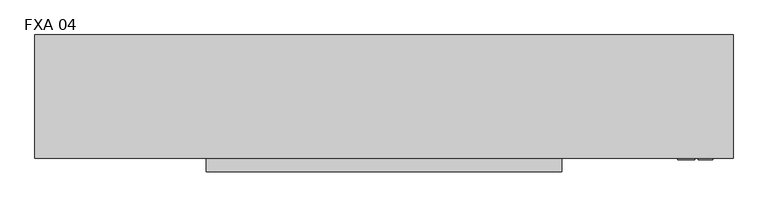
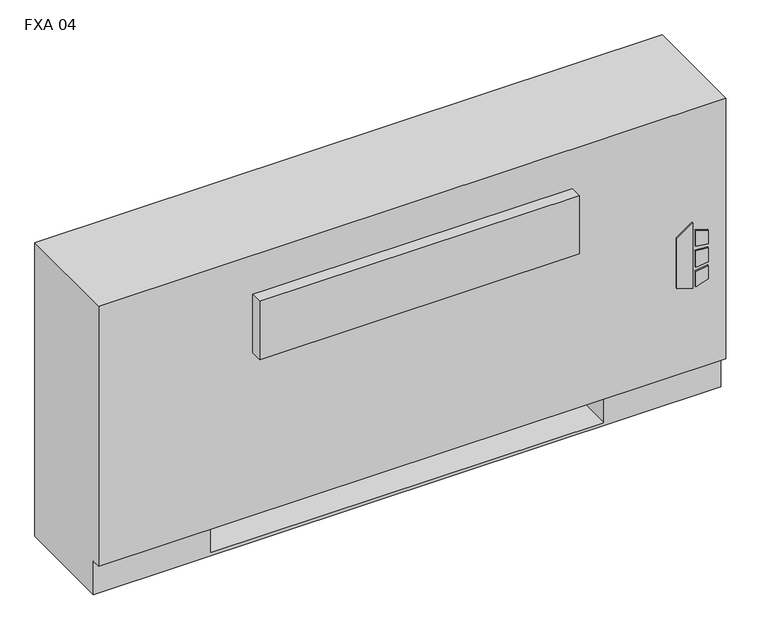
"""IFC4 building model written with IfcOpenShell, lengths in millimetres: proxy geometry, Vertical_Fan_Coil_Unit_-_FXA_-_IEC_-_2-Pipe_FS-FR_RH_2022 : FXA 04."""

from ifc_helpers import new_model, si_unit, point, frame, frame_2d, origin, place, context, project, spatial, polyline, circle_curve, trimmed, segment, composite_curve, outline, extrude, source, transform, mapped, element, save
from ifc_brep_helpers import plane_surface, revolved_surface, advanced_brep


def fxa_04_6a423ed9(model_context):
    return source(origin(), model_context, "Body", "SolidModel", [
        extrude(outline(polyline([(263.9480703, 696.9868862), (254.0, 729.1602728), (396.1709244, 729.1602728), (373.1489183, 696.9868862), (263.9480703, 696.9868862)])), frame((0.0, 12.7, 0.0), z_axis=(0.0, 1.0, 0.0), x_axis=(0.0, 0.0, 1.0)), (0.0, 0.0, 1.0), 3.175),
        extrude(outline(polyline([(342.9473557, 735.9186058), (339.7449632, 762.0), (368.9738042, 762.0), (377.0382193, 735.9186058), (342.9473557, 735.9186058)])), frame((0.0, 12.7, 0.0), z_axis=(0.0, 1.0, 0.0), x_axis=(0.0, 0.0, 1.0)), (0.0, 0.0, 1.0), 3.175),
        extrude(outline(polyline([(291.0838288, 762.0), (287.4183279, 735.9186058), (254.0, 735.9186058), (262.6342372, 762.0), (291.0838288, 762.0)])), frame((0.0, 12.7, 0.0), z_axis=(0.0, 1.0, 0.0), x_axis=(0.0, 0.0, 1.0)), (0.0, 0.0, 1.0), 3.175),
        extrude(outline(polyline([(330.3989903, 762.0), (332.6808166, 735.9186058), (296.7432681, 735.9186058), (299.4845331, 762.0), (330.3989903, 762.0)])), frame((0.0, 12.7, 0.0), z_axis=(0.0, 1.0, 0.0), x_axis=(0.0, 0.0, 1.0)), (0.0, 0.0, 1.0), 3.175),
        extrude(outline(polyline([(-374.65, 81.534), (-374.65, 223.266), (-254.0, 223.266), (-254.0, 81.534), (-374.65, 81.534)])), frame((0.0, 0.0, 327.025), z_axis=(0.0, 0.0, 1.0), x_axis=(1.0, 0.0, 0.0)), (0.0, 0.0, 1.0), 260.35),
        extrude(outline(composite_curve([segment(trimmed(circle_curve(frame_2d((622.3, 130.175)), 9.525), [point((612.775, 130.175))], [point((631.825, 130.175))], False, "CARTESIAN"), True, "CONTINUOUS"), segment(trimmed(circle_curve(frame_2d((622.3, 130.175)), 9.525), [point((631.825, 130.175))], [point((612.775, 130.175))], False, "CARTESIAN"), True, "CONTINUOUS")], self_intersect=False)), frame((0.0, 0.0, 101.6), z_axis=(0.0, 0.0, 1.0), x_axis=(1.0, 0.0, 0.0)), (0.0, 0.0, 1.0), 25.4),
        extrude(outline(polyline([(723.9, 196.85), (723.9, 63.5), (558.8, 63.5), (558.8, 196.85), (723.9, 196.85)])), frame((0.0, 0.0, 127.0), z_axis=(0.0, 0.0, 1.0), x_axis=(1.0, 0.0, 0.0)), (0.0, 0.0, 1.0), 50.8),
        extrude(outline(polyline([(482.6, -9.525), (-177.8, -9.525), (-177.8, 15.875), (482.6, 15.875), (482.6, -9.525)])), frame((0.0, 0.0, 428.625), z_axis=(0.0, 0.0, 1.0), x_axis=(1.0, 0.0, 0.0)), (0.0, 0.0, 1.0), 127.0),
        extrude(outline(composite_curve([segment(trimmed(circle_curve(frame_2d((93.1926, 485.5972)), 7.9375), [point((93.1926, 493.5347))], [point((93.1926, 477.6597))], False, "CARTESIAN"), True, "CONTINUOUS"), segment(trimmed(circle_curve(frame_2d((93.1926, 485.5972)), 7.9375), [point((93.1926, 477.6597))], [point((93.1926, 493.5347))], False, "CARTESIAN"), True, "CONTINUOUS")], self_intersect=False)), frame((558.8, 0.0, 0.0), z_axis=(1.0, 0.0, 0.0), x_axis=(0.0, 1.0, 0.0)), (0.0, 0.0, 1.0), 50.8),
        extrude(outline(composite_curve([segment(trimmed(circle_curve(frame_2d((141.3002, 458.9526)), 7.9375), [point((141.3002, 466.8901))], [point((141.3002, 451.0151))], False, "CARTESIAN"), True, "CONTINUOUS"), segment(trimmed(circle_curve(frame_2d((141.3002, 458.9526)), 7.9375), [point((141.3002, 451.0151))], [point((141.3002, 466.8901))], False, "CARTESIAN"), True, "CONTINUOUS")], self_intersect=False)), frame((558.8, 0.0, 0.0), z_axis=(1.0, 0.0, 0.0), x_axis=(0.0, 1.0, 0.0)), (0.0, 0.0, 1.0), 50.8),
        advanced_brep(
        [(800.1, 244.475, 641.35), (-495.3, 244.475, 641.35), (-495.3, 15.875, 641.35), (800.1, 15.875, 641.35), (-495.3, 244.475, 0.0), (800.1, 244.475, 0.0), (800.1, 34.925, 0.0), (-495.3, 34.925, 0.0), (558.8, 244.475, 73.025), (787.4, 244.475, 73.025), (787.4, 244.475, 628.65), (558.8, 244.475, 628.65), (558.8, 244.475, 414.8650565), (587.375, 244.475, 414.8650565), (587.375, 244.475, 385.2349435), (558.8, 244.475, 385.2349435), (558.8, 244.475, 287.3375), (587.375, 244.475, 287.3375), (587.375, 244.475, 258.7625), (558.8, 244.475, 258.7625), (558.8, 244.475, 141.2875), (587.375, 244.475, 141.2875), (587.375, 244.475, 112.7125), (558.8, 244.475, 112.7125), (-254.0, 244.475, 628.65), (-482.6, 244.475, 628.65), (-482.6, 244.475, 73.025), (-254.0, 244.475, 73.025), (-254.0, 244.475, 112.7125), (-282.575, 244.475, 112.7125), (-282.575, 244.475, 141.2875), (-254.0, 244.475, 141.2875), (-254.0, 244.475, 258.7625), (-282.575, 244.475, 258.7625), (-282.575, 244.475, 287.3375), (-254.0, 244.475, 287.3375), (-254.0, 244.475, 385.2349435), (-282.575, 244.475, 385.2349435), (-282.575, 244.475, 414.8650565), (-254.0, 244.475, 414.8650565), (577.0626, 244.475, 127.0), (565.9374, 244.475, 127.0), (577.0626, 244.475, 400.05), (565.9374, 244.475, 400.05), (577.0626, 244.475, 273.05), (565.9374, 244.475, 273.05), (-261.1374, 244.475, 127.0), (-272.2626, 244.475, 127.0), (-261.1374, 244.475, 273.05), (-272.2626, 244.475, 273.05), (-261.1374, 244.475, 400.05), (-272.2626, 244.475, 400.05), (-495.3, 34.925, 73.025), (-495.3, 15.875, 73.025), (800.1, 15.875, 73.025), (800.1, 34.925, 73.025), (-254.0, 34.925, 73.025), (-254.0, 219.075, 73.025), (558.8, 219.075, 73.025), (558.8, 34.925, 73.025), (558.8, 34.925, 6.35), (-254.0, 34.925, 6.35), (558.8, 41.275, 628.65), (787.4, 41.275, 628.65), (787.4, 41.275, 73.025), (558.8, 41.275, 73.025), (-254.0, 41.275, 628.65), (-254.0, 41.275, 73.025), (-482.6, 41.275, 73.025), (-482.6, 41.275, 628.65), (558.8, 219.075, 73.025), (558.8, 238.125, 112.7125), (558.8, 238.125, 141.2875), (558.8, 238.125, 258.7625), (558.8, 238.125, 287.3375), (558.8, 238.125, 385.2349435), (558.8, 238.125, 414.8650565), (-254.0, 219.075, 73.025), (-254.0, 238.125, 414.8650565), (-254.0, 238.125, 385.2349435), (-254.0, 238.125, 287.3375), (-254.0, 238.125, 258.7625), (-254.0, 238.125, 141.2875), (-254.0, 238.125, 112.7125), (-254.0, 219.075, 6.35), (558.8, 219.075, 6.35), (587.375, 238.125, 112.7125), (587.375, 238.125, 141.2875), (565.9374, 238.125, 127.0), (577.0626, 238.125, 127.0), (587.375, 238.125, 258.7625), (587.375, 238.125, 287.3375), (565.9374, 238.125, 273.05), (577.0626, 238.125, 273.05), (587.375, 238.125, 385.2349435), (587.375, 238.125, 414.8650565), (565.9374, 238.125, 400.05), (577.0626, 238.125, 400.05), (-282.575, 238.125, 141.2875), (-282.575, 238.125, 112.7125), (-272.2626, 238.125, 127.0), (-261.1374, 238.125, 127.0), (-282.575, 238.125, 287.3375), (-282.575, 238.125, 258.7625), (-272.2626, 238.125, 273.05), (-261.1374, 238.125, 273.05), (-282.575, 238.125, 414.8650565), (-282.575, 238.125, 385.2349435), (-272.2626, 238.125, 400.05), (-261.1374, 238.125, 400.05)],
        [
            (0, 1),
            (1, 2),
            (2, 3),
            (3, 0),
            (4, 5),
            (5, 6),
            (6, 7),
            (7, 4),
            (0, 5),
            (4, 1),
            (8, 9),
            (9, 10),
            (10, 11),
            (11, 12),
            (12, 13),
            (13, 14),
            (14, 15),
            (15, 16),
            (16, 17),
            (17, 18),
            (18, 19),
            (19, 20),
            (20, 21),
            (21, 22),
            (22, 23),
            (23, 8),
            (24, 25),
            (25, 26),
            (26, 27),
            (27, 28),
            (28, 29),
            (29, 30),
            (30, 31),
            (31, 32),
            (32, 33),
            (33, 34),
            (34, 35),
            (35, 36),
            (36, 37),
            (37, 38),
            (38, 39),
            (39, 24),
            (40, 41, circle_curve(frame((571.5, 244.475, 127.0), z_axis=(0.0, -1.0, 0.0), x_axis=(-1.0, 0.0, 0.0)), 5.5626)),
            (41, 40, circle_curve(frame((571.5, 244.475, 127.0), z_axis=(0.0, -1.0, 0.0), x_axis=(-1.0, 0.0, 0.0)), 5.5626)),
            (42, 43, circle_curve(frame((571.5, 244.475, 400.05), z_axis=(0.0, -1.0, 0.0), x_axis=(-1.0, 0.0, 0.0)), 5.5626)),
            (43, 42, circle_curve(frame((571.5, 244.475, 400.05), z_axis=(0.0, -1.0, 0.0), x_axis=(-1.0, 0.0, 0.0)), 5.5626)),
            (44, 45, circle_curve(frame((571.5, 244.475, 273.05), z_axis=(0.0, -1.0, 0.0), x_axis=(-1.0, 0.0, 0.0)), 5.5626)),
            (45, 44, circle_curve(frame((571.5, 244.475, 273.05), z_axis=(0.0, -1.0, 0.0), x_axis=(-1.0, 0.0, 0.0)), 5.5626)),
            (46, 47, circle_curve(frame((-266.7, 244.475, 127.0), z_axis=(0.0, -1.0, 0.0), x_axis=(-1.0, 0.0, 0.0)), 5.5626)),
            (47, 46, circle_curve(frame((-266.7, 244.475, 127.0), z_axis=(0.0, -1.0, 0.0), x_axis=(-1.0, 0.0, 0.0)), 5.5626)),
            (48, 49, circle_curve(frame((-266.7, 244.475, 273.05), z_axis=(0.0, -1.0, 0.0), x_axis=(-1.0, 0.0, 0.0)), 5.5626)),
            (49, 48, circle_curve(frame((-266.7, 244.475, 273.05), z_axis=(0.0, -1.0, 0.0), x_axis=(-1.0, 0.0, 0.0)), 5.5626)),
            (50, 51, circle_curve(frame((-266.7, 244.475, 400.05), z_axis=(0.0, -1.0, 0.0), x_axis=(-1.0, 0.0, 0.0)), 5.5626)),
            (51, 50, circle_curve(frame((-266.7, 244.475, 400.05), z_axis=(0.0, -1.0, 0.0), x_axis=(-1.0, 0.0, 0.0)), 5.5626)),
            (7, 52),
            (52, 53),
            (53, 2),
            (53, 54),
            (54, 3),
            (54, 55),
            (55, 6),
            (52, 56),
            (56, 57),
            (57, 58),
            (58, 59),
            (59, 55),
            (59, 60),
            (60, 61),
            (61, 56),
            (62, 63),
            (63, 64),
            (64, 65),
            (65, 62),
            (66, 67),
            (67, 68),
            (68, 69),
            (69, 66),
            (65, 70),
            (70, 8),
            (23, 71),
            (71, 72),
            (72, 20),
            (19, 73),
            (73, 74),
            (74, 16),
            (15, 75),
            (75, 76),
            (76, 12),
            (11, 62),
            (64, 9),
            (63, 10),
            (69, 25),
            (24, 66),
            (68, 26),
            (67, 77),
            (77, 27),
            (39, 78),
            (78, 79),
            (79, 36),
            (35, 80),
            (80, 81),
            (81, 32),
            (31, 82),
            (82, 83),
            (83, 28),
            (57, 84),
            (84, 85),
            (85, 58),
            (85, 60),
            (84, 61),
            (71, 86),
            (86, 87),
            (87, 72),
            (88, 89, circle_curve(frame((571.5, 238.125, 127.0), z_axis=(0.0, 1.0, 0.0), x_axis=(-1.0, 0.0, 0.0)), 5.5626)),
            (89, 88, circle_curve(frame((571.5, 238.125, 127.0), z_axis=(0.0, 1.0, 0.0), x_axis=(-1.0, 0.0, 0.0)), 5.5626)),
            (73, 90),
            (90, 91),
            (91, 74),
            (92, 93, circle_curve(frame((571.5, 238.125, 273.05), z_axis=(0.0, 1.0, 0.0), x_axis=(-1.0, 0.0, 0.0)), 5.5626)),
            (93, 92, circle_curve(frame((571.5, 238.125, 273.05), z_axis=(0.0, 1.0, 0.0), x_axis=(-1.0, 0.0, 0.0)), 5.5626)),
            (75, 94),
            (94, 95),
            (95, 76),
            (96, 97, circle_curve(frame((571.5, 238.125, 400.05), z_axis=(0.0, 1.0, 0.0), x_axis=(-1.0, 0.0, 0.0)), 5.5626)),
            (97, 96, circle_curve(frame((571.5, 238.125, 400.05), z_axis=(0.0, 1.0, 0.0), x_axis=(-1.0, 0.0, 0.0)), 5.5626)),
            (98, 99),
            (99, 83),
            (82, 98),
            (100, 101, circle_curve(frame((-266.7, 238.125, 127.0), z_axis=(0.0, 1.0, 0.0), x_axis=(-1.0, 0.0, 0.0)), 5.5626)),
            (101, 100, circle_curve(frame((-266.7, 238.125, 127.0), z_axis=(0.0, 1.0, 0.0), x_axis=(-1.0, 0.0, 0.0)), 5.5626)),
            (102, 103),
            (103, 81),
            (80, 102),
            (104, 105, circle_curve(frame((-266.7, 238.125, 273.05), z_axis=(0.0, 1.0, 0.0), x_axis=(-1.0, 0.0, 0.0)), 5.5626)),
            (105, 104, circle_curve(frame((-266.7, 238.125, 273.05), z_axis=(0.0, 1.0, 0.0), x_axis=(-1.0, 0.0, 0.0)), 5.5626)),
            (106, 107),
            (107, 79),
            (78, 106),
            (108, 109, circle_curve(frame((-266.7, 238.125, 400.05), z_axis=(0.0, 1.0, 0.0), x_axis=(-1.0, 0.0, 0.0)), 5.5626)),
            (109, 108, circle_curve(frame((-266.7, 238.125, 400.05), z_axis=(0.0, 1.0, 0.0), x_axis=(-1.0, 0.0, 0.0)), 5.5626)),
            (87, 21),
            (86, 22),
            (91, 17),
            (90, 18),
            (95, 13),
            (94, 14),
            (30, 98),
            (99, 29),
            (34, 102),
            (103, 33),
            (38, 106),
            (107, 37),
            (88, 41),
            (40, 89),
            (96, 43),
            (42, 97),
            (92, 45),
            (44, 93),
            (100, 47),
            (46, 101),
            (104, 49),
            (48, 105),
            (108, 51),
            (50, 109),
        ],
        [
            plane_surface(frame((-495.3, 244.475, 641.35), z_axis=(0.0, 0.0, 1.0), x_axis=(-1.0, 0.0, 0.0))),
            plane_surface(frame((-495.3, 244.475, 0.0), z_axis=(0.0, 0.0, -1.0), x_axis=(1.0, 0.0, 0.0))),
            plane_surface(frame((800.1, 244.475, 641.35), z_axis=(0.0, 1.0, 0.0), x_axis=(0.0, 0.0, -1.0))),
            plane_surface(frame((-495.3, 244.475, 641.35), z_axis=(-1.0, 0.0, 0.0), x_axis=(0.0, 0.0, -1.0))),
            plane_surface(frame((-495.3, 15.875, 641.35), z_axis=(0.0, -1.0, 0.0), x_axis=(0.0, 0.0, -1.0))),
            plane_surface(frame((800.1, 15.875, 641.35), z_axis=(1.0, 0.0, 0.0), x_axis=(0.0, 0.0, -1.0))),
            plane_surface(frame((-495.3, 15.875, 73.025), z_axis=(0.0, 0.0, -1.0), x_axis=(1.0, 0.0, 0.0))),
            plane_surface(frame((-495.3, 34.925, 73.025), z_axis=(0.0, -1.0, 0.0), x_axis=(1.0, 0.0, 0.0))),
            plane_surface(frame((558.8, 41.275, 628.65), z_axis=(0.0, 1.0, 0.0), x_axis=(0.0, 0.0, -1.0))),
            plane_surface(frame((558.8, 41.275, 628.65), z_axis=(1.0, 0.0, 0.0), x_axis=(0.0, 1.0, 0.0))),
            plane_surface(frame((558.8, 41.275, 73.025), z_axis=(0.0, 0.0, 1.0), x_axis=(0.0, 1.0, 0.0))),
            plane_surface(frame((787.4, 41.275, 73.025), z_axis=(-1.0, 0.0, 0.0), x_axis=(0.0, 1.0, 0.0))),
            plane_surface(frame((787.4, 41.275, 628.65), z_axis=(0.0, 0.0, -1.0), x_axis=(0.0, 1.0, 0.0))),
            plane_surface(frame((-254.0, 41.275, 628.65), z_axis=(0.0, 0.0, -1.0), x_axis=(0.0, 1.0, 0.0))),
            plane_surface(frame((-482.6, 41.275, 628.65), z_axis=(1.0, 0.0, 0.0), x_axis=(0.0, 1.0, 0.0))),
            plane_surface(frame((-482.6, 41.275, 73.025), z_axis=(0.0, 0.0, 1.0), x_axis=(0.0, 1.0, 0.0))),
            plane_surface(frame((-254.0, 41.275, 73.025), z_axis=(-1.0, 0.0, 0.0), x_axis=(0.0, 1.0, 0.0))),
            plane_surface(frame((558.8, 219.075, 73.025), z_axis=(0.0, -1.0, 0.0), x_axis=(0.0, 0.0, -1.0))),
            plane_surface(frame((558.8, 219.075, 73.025), z_axis=(-1.0, 0.0, 0.0), x_axis=(0.0, -1.0, 0.0))),
            plane_surface(frame((558.8, 219.075, 6.35), z_axis=(0.0, 0.0, 1.0), x_axis=(0.0, -1.0, 0.0))),
            plane_surface(frame((-254.0, 219.075, 6.35), z_axis=(1.0, 0.0, 0.0), x_axis=(0.0, -1.0, 0.0))),
            plane_surface(frame((587.375, 238.125, 141.2875), z_axis=(0.0, -1.0, 0.0), x_axis=(-1.0, 0.0, 0.0))),
            plane_surface(frame((558.8, 244.475, 141.2875), z_axis=(0.0, 0.0, 1.0), x_axis=(0.0, -1.0, 0.0))),
            plane_surface(frame((587.375, 244.475, 141.2875), z_axis=(1.0, 0.0, 0.0), x_axis=(0.0, -1.0, 0.0))),
            plane_surface(frame((587.375, 244.475, 112.7125), z_axis=(0.0, 0.0, -1.0), x_axis=(0.0, -1.0, 0.0))),
            plane_surface(frame((558.8, 244.475, 287.3375), z_axis=(0.0, 0.0, 1.0), x_axis=(0.0, -1.0, 0.0))),
            plane_surface(frame((587.375, 244.475, 287.3375), z_axis=(1.0, 0.0, 0.0), x_axis=(0.0, -1.0, 0.0))),
            plane_surface(frame((587.375, 244.475, 258.7625), z_axis=(0.0, 0.0, -1.0), x_axis=(0.0, -1.0, 0.0))),
            plane_surface(frame((558.8, 244.475, 414.8650565), z_axis=(0.0, 0.0, 1.0), x_axis=(0.0, -1.0, 0.0))),
            plane_surface(frame((587.375, 244.475, 414.8650565), z_axis=(1.0, 0.0, 0.0), x_axis=(0.0, -1.0, 0.0))),
            plane_surface(frame((587.375, 244.475, 385.2349435), z_axis=(0.0, 0.0, -1.0), x_axis=(0.0, -1.0, 0.0))),
            plane_surface(frame((-282.575, 244.475, 141.2875), z_axis=(0.0, 0.0, 1.0), x_axis=(0.0, -1.0, 0.0))),
            plane_surface(frame((-254.0, 244.475, 112.7125), z_axis=(0.0, 0.0, -1.0), x_axis=(0.0, -1.0, 0.0))),
            plane_surface(frame((-282.575, 244.475, 112.7125), z_axis=(-1.0, 0.0, 0.0), x_axis=(0.0, -1.0, 0.0))),
            plane_surface(frame((-282.575, 244.475, 287.3375), z_axis=(0.0, 0.0, 1.0), x_axis=(0.0, -1.0, 0.0))),
            plane_surface(frame((-254.0, 244.475, 258.7625), z_axis=(0.0, 0.0, -1.0), x_axis=(0.0, -1.0, 0.0))),
            plane_surface(frame((-282.575, 244.475, 258.7625), z_axis=(-1.0, 0.0, 0.0), x_axis=(0.0, -1.0, 0.0))),
            plane_surface(frame((-282.575, 244.475, 414.8650565), z_axis=(0.0, 0.0, 1.0), x_axis=(0.0, -1.0, 0.0))),
            plane_surface(frame((-254.0, 244.475, 385.2349435), z_axis=(0.0, 0.0, -1.0), x_axis=(0.0, -1.0, 0.0))),
            plane_surface(frame((-282.575, 244.475, 385.2349435), z_axis=(-1.0, 0.0, 0.0), x_axis=(0.0, -1.0, 0.0))),
            revolved_surface(polyline([(565.9374, 238.125, 127.0), (565.9374, 244.475, 127.0)]), (571.5, 244.475, 127.0), (0.0, -1.0, 0.0)),
            revolved_surface(polyline([(565.9374, 238.125, 400.05), (565.9374, 244.475, 400.05)]), (571.5, 244.475, 400.05), (0.0, -1.0, 0.0)),
            revolved_surface(polyline([(565.9374, 238.125, 273.05), (565.9374, 244.475, 273.05)]), (571.5, 244.475, 273.05), (0.0, -1.0, 0.0)),
            revolved_surface(polyline([(-272.26259999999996, 238.125, 127.0), (-272.26259999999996, 244.475, 127.0)]), (-266.7, 244.475, 127.0), (0.0, -1.0, 0.0)),
            revolved_surface(polyline([(-272.26259999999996, 238.125, 273.05), (-272.26259999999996, 244.475, 273.05)]), (-266.7, 244.475, 273.05), (0.0, -1.0, 0.0)),
            revolved_surface(polyline([(-272.26259999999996, 238.125, 400.05), (-272.26259999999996, 244.475, 400.05)]), (-266.7, 244.475, 400.05), (0.0, -1.0, 0.0)),
        ],
        [
            (0, [[1, 2, 3, 4]]),
            (1, [[5, 6, 7, 8]]),
            (2, [[-1, 9, -5, 10], [11, 12, 13, 14, 15, 16, 17, 18, 19, 20, 21, 22, 23, 24, 25, 26], [27, 28, 29, 30, 31, 32, 33, 34, 35, 36, 37, 38, 39, 40, 41, 42], [43, 44], [45, 46], [47, 48], [49, 50], [51, 52], [53, 54]]),
            (3, [[-2, -10, -8, 55, 56, 57]]),
            (4, [[-3, -57, 58, 59]]),
            (5, [[-4, -59, 60, 61, -6, -9]]),
            (6, [[-56, 62, 63, 64, 65, 66, -60, -58]]),
            (7, [[-7, -61, -66, 67, 68, 69, -62, -55]]),
            (8, [[70, 71, 72, 73]]),
            (8, [[74, 75, 76, 77]]),
            (9, [[-73, 78, 79, -26, 80, 81, 82, -22, 83, 84, 85, -18, 86, 87, 88, -14, 89]]),
            (10, [[-72, 90, -11, -79, -78]]),
            (11, [[-71, 91, -12, -90]]),
            (12, [[-70, -89, -13, -91]]),
            (13, [[-77, 92, -27, 93]]),
            (14, [[-76, 94, -28, -92]]),
            (15, [[-75, 95, 96, -29, -94]]),
            (16, [[-74, -93, -42, 97, 98, 99, -38, 100, 101, 102, -34, 103, 104, 105, -30, -96, -95]]),
            (17, [[-64, 106, 107, 108]]),
            (18, [[-108, 109, -67, -65]]),
            (19, [[-107, 110, -68, -109]]),
            (20, [[-106, -63, -69, -110]]),
            (21, [[111, 112, 113, -81], [114, 115]]),
            (21, [[116, 117, 118, -84], [119, 120]]),
            (21, [[121, 122, 123, -87], [124, 125]]),
            (21, [[126, 127, -104, 128], [129, 130]]),
            (21, [[131, 132, -101, 133], [134, 135]]),
            (21, [[136, 137, -98, 138], [139, 140]]),
            (22, [[-113, 141, -23, -82]]),
            (23, [[-112, 142, -24, -141]]),
            (24, [[-111, -80, -25, -142]]),
            (25, [[-118, 143, -19, -85]]),
            (26, [[-117, 144, -20, -143]]),
            (27, [[-116, -83, -21, -144]]),
            (28, [[-123, 145, -15, -88]]),
            (29, [[-122, 146, -16, -145]]),
            (30, [[-121, -86, -17, -146]]),
            (31, [[-128, -103, -33, 147]]),
            (32, [[-127, 148, -31, -105]]),
            (33, [[-126, -147, -32, -148]]),
            (34, [[-133, -100, -37, 149]]),
            (35, [[-132, 150, -35, -102]]),
            (36, [[-131, -149, -36, -150]]),
            (37, [[-138, -97, -41, 151]]),
            (38, [[-137, 152, -39, -99]]),
            (39, [[-136, -151, -40, -152]]),
            (40, [[153, -43, 154, -114]]),
            (40, [[-153, -115, -154, -44]]),
            (41, [[155, -45, 156, -124]]),
            (41, [[-155, -125, -156, -46]]),
            (42, [[157, -47, 158, -119]]),
            (42, [[-157, -120, -158, -48]]),
            (43, [[159, -49, 160, -129]]),
            (43, [[-159, -130, -160, -50]]),
            (44, [[161, -51, 162, -134]]),
            (44, [[-161, -135, -162, -52]]),
            (45, [[163, -53, 164, -139]]),
            (45, [[-163, -140, -164, -54]]),
        ],
    ),
    ])


if __name__ == "__main__":
    model = new_model("IFC4")
    model_context = context("Model", 3, world=origin())
    ifc_project = project(units=[si_unit("LENGTHUNIT", "METRE", prefix="MILLI")], contexts=[model_context])
    site = spatial("IfcSite", under=ifc_project)
    building = spatial("IfcBuilding", under=site)
    placement = place(None, origin())
    fxa_04_shape = fxa_04_6a423ed9(model_context)
    element("IfcBuildingElementProxy", 1, Name="Vertical_Fan_Coil_Unit_-_FXA_-_IEC_-_2-Pipe_FS-FR_RH_2022 : FXA 04", ObjectType="Vertical_Fan_Coil_Unit_-_FXA_-_IEC_-_2-Pipe_FS-FR_RH_2022 : FXA 04", at=placement, inside=building, context=model_context, shape_type="MappedRepresentation", body=[
        mapped(fxa_04_shape, transform((0.0, 0.0, 0.0), x_axis=(1.0, 0.0, 0.0), y_axis=(0.0, 1.0, 0.0), z_axis=(0.0, 0.0, 1.0))),
    ])
    save(model, "model.ifc")
